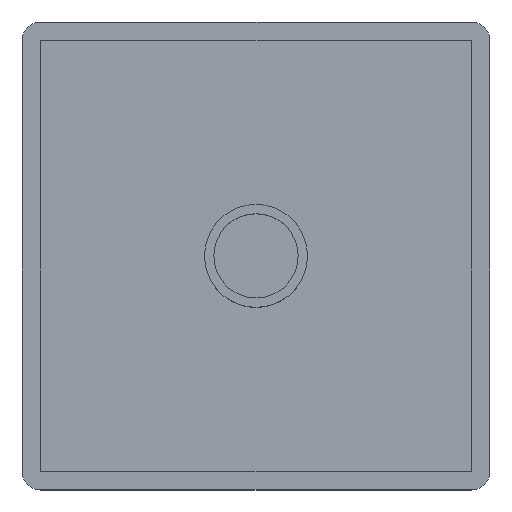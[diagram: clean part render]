
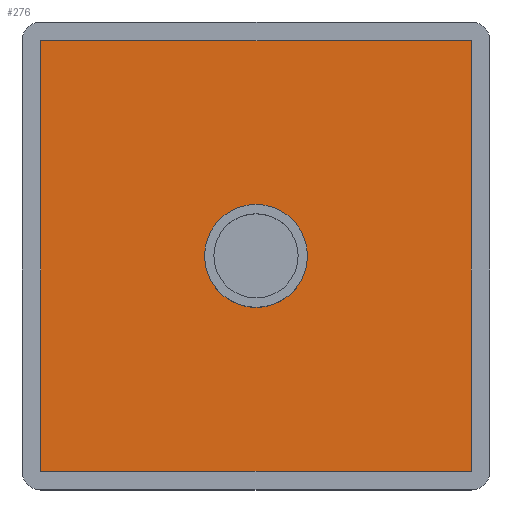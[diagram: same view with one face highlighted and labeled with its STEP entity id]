
A CAD part, top view. The second image highlights one B-rep face of the part: STEP entity #276.
In plain terms, the highlighted planar face has unit normal (0, 0, 1).
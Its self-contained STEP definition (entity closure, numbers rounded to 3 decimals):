
#23 = DIRECTION ( 'NONE',  ( 1., 0., 0. ) ) ;
#39 = VERTEX_POINT ( 'NONE', #840 ) ;
#48 = LINE ( 'NONE', #808, #371 ) ;
#52 = CIRCLE ( 'NONE', #242, 5.5 ) ;
#75 = EDGE_CURVE ( 'NONE', #798, #39, #280, .T. ) ;
#78 = DIRECTION ( 'NONE',  ( 0., 0., 1. ) ) ;
#89 = VECTOR ( 'NONE', #301, 1000. ) ;
#93 = VERTEX_POINT ( 'NONE', #375 ) ;
#100 = CARTESIAN_POINT ( 'NONE',  ( 0., 23., 0. ) ) ;
#130 = DIRECTION ( 'NONE',  ( 1., 0., 0. ) ) ;
#134 = ORIENTED_EDGE ( 'NONE', *, *, #499, .F. ) ;
#158 = AXIS2_PLACEMENT_3D ( 'NONE', #307, #219, #130 ) ;
#159 = CARTESIAN_POINT ( 'NONE',  ( 0., 0., 0. ) ) ;
#187 = DIRECTION ( 'NONE',  ( 0., -1., 0. ) ) ;
#219 = DIRECTION ( 'NONE',  ( 0., 0., 1. ) ) ;
#242 = AXIS2_PLACEMENT_3D ( 'NONE', #494, #410, #321 ) ;
#248 = CARTESIAN_POINT ( 'NONE',  ( 5.5, 0., 0. ) ) ;
#276 = ADVANCED_FACE ( 'NONE', ( #660, #751 ), #515, .T. ) ;
#279 = CARTESIAN_POINT ( 'NONE',  ( -23., 25., 0. ) ) ;
#280 = CIRCLE ( 'NONE', #158, 5.5 ) ;
#301 = DIRECTION ( 'NONE',  ( 0., -1., 0. ) ) ;
#307 = CARTESIAN_POINT ( 'NONE',  ( 0., 0., 0. ) ) ;
#321 = DIRECTION ( 'NONE',  ( 1., 0., 0. ) ) ;
#325 = ORIENTED_EDGE ( 'NONE', *, *, #648, .T. ) ;
#345 = EDGE_CURVE ( 'NONE', #93, #661, #366, .T. ) ;
#366 = LINE ( 'NONE', #279, #626 ) ;
#370 = EDGE_CURVE ( 'NONE', #93, #837, #454, .T. ) ;
#371 = VECTOR ( 'NONE', #716, 1000. ) ;
#375 = CARTESIAN_POINT ( 'NONE',  ( -23., 23., 0. ) ) ;
#389 = CARTESIAN_POINT ( 'NONE',  ( 23., 0., 0. ) ) ;
#410 = DIRECTION ( 'NONE',  ( 0., 0., 1. ) ) ;
#425 = ORIENTED_EDGE ( 'NONE', *, *, #443, .F. ) ;
#443 = EDGE_CURVE ( 'NONE', #837, #752, #563, .T. ) ;
#454 = LINE ( 'NONE', #100, #647 ) ;
#465 = EDGE_LOOP ( 'NONE', ( #325, #425, #783, #549 ) ) ;
#466 = CARTESIAN_POINT ( 'NONE',  ( 23., -23., 0. ) ) ;
#494 = CARTESIAN_POINT ( 'NONE',  ( 0., 0., 0. ) ) ;
#499 = EDGE_CURVE ( 'NONE', #39, #798, #52, .T. ) ;
#515 = PLANE ( 'NONE',  #682 ) ;
#533 = CARTESIAN_POINT ( 'NONE',  ( 23., 23., 0. ) ) ;
#549 = ORIENTED_EDGE ( 'NONE', *, *, #345, .T. ) ;
#563 = LINE ( 'NONE', #389, #89 ) ;
#626 = VECTOR ( 'NONE', #187, 1000. ) ;
#647 = VECTOR ( 'NONE', #23, 1000. ) ;
#648 = EDGE_CURVE ( 'NONE', #661, #752, #48, .T. ) ;
#651 = ORIENTED_EDGE ( 'NONE', *, *, #75, .F. ) ;
#660 = FACE_OUTER_BOUND ( 'NONE', #465, .T. ) ;
#661 = VERTEX_POINT ( 'NONE', #696 ) ;
#682 = AXIS2_PLACEMENT_3D ( 'NONE', #159, #78, #839 ) ;
#695 = EDGE_LOOP ( 'NONE', ( #134, #651 ) ) ;
#696 = CARTESIAN_POINT ( 'NONE',  ( -23., -23., 0. ) ) ;
#716 = DIRECTION ( 'NONE',  ( 1., 0., 0. ) ) ;
#751 = FACE_BOUND ( 'NONE', #695, .T. ) ;
#752 = VERTEX_POINT ( 'NONE', #466 ) ;
#783 = ORIENTED_EDGE ( 'NONE', *, *, #370, .F. ) ;
#798 = VERTEX_POINT ( 'NONE', #248 ) ;
#808 = CARTESIAN_POINT ( 'NONE',  ( -25., -23., 0. ) ) ;
#837 = VERTEX_POINT ( 'NONE', #533 ) ;
#839 = DIRECTION ( 'NONE',  ( 1., 0., 0. ) ) ;
#840 = CARTESIAN_POINT ( 'NONE',  ( -5.5, 0., 0. ) ) ;
